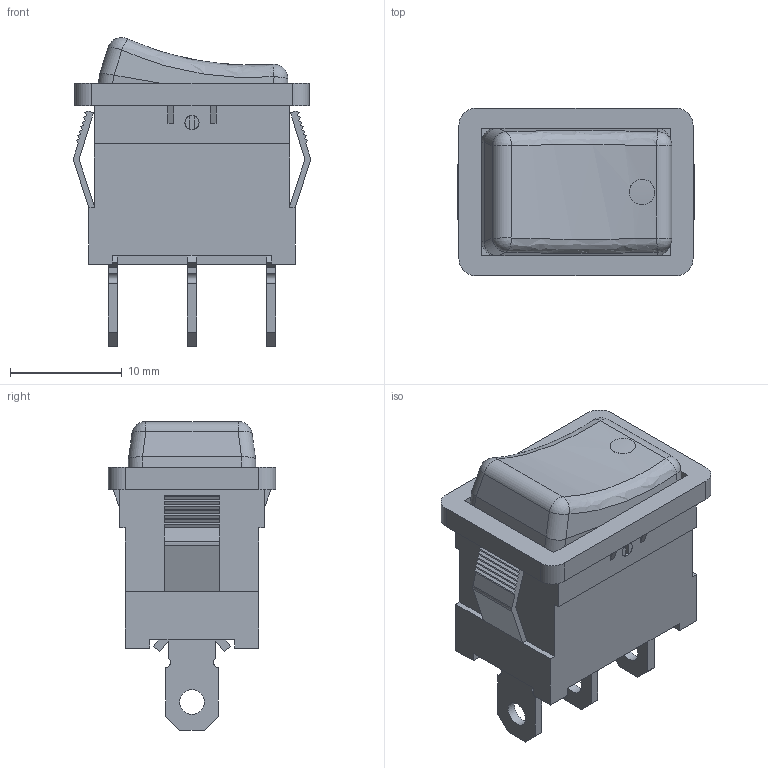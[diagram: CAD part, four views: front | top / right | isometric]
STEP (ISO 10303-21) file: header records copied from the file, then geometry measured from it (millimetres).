
FILE_DESCRIPTION(/* description */ (''),/* implementation_level */ '2;1');
FILE_NAME(/* name */ 'C:\Users\Hani\Desktop\work\RF2-1A-DC-2-GL\RF2-1A-DC-2-GL Rocker Switch.stp',/* time_stamp */ '2020-07-06T19:00:31-07:00',/* author */ ('Hani'),/* organization */ (''),/* preprocessor_version */ 'ST-DEVELOPER v17',/* originating_system */ 'Autodesk Inventor 2019',/* authorisation */ '');
FILE_SCHEMA (('AUTOMOTIVE_DESIGN { 1 0 10303 214 3 1 1 }'));
Length unit declared in the file: inch
Products named in the file (5): SRB1-2G-DC-1-NN Rocker Switch; ROCKER SWITCH; botton; .187 terminal; pin
Assembly tree (6 placements, depth 2):
  SRB1-2G-DC-1-NN Rocker Switch
    ROCKER SWITCH
    botton
    .187 terminal  x3
    pin
Bounding box: 21.25 x 15.01 x 27.69 mm (x, y, z)
Volume: 4104.3 mm3; surface area: 2977.1 mm2
Topology: 6 solids, 6 shells, 209 faces, 558 edges, 364 vertices
Faces by surface type: plane 171, cylinder 27, bspline 7, sphere 4
Full cylindrical faces by diameter (mm): 1.27 x2, 2.21 x3
Entity records: 5549 total; most frequent: CARTESIAN_POINT 1049, ORIENTED_EDGE 912, DIRECTION 862, EDGE_CURVE 456, LINE 396, VECTOR 396, VERTEX_POINT 296, AXIS2_PLACEMENT_3D 233
